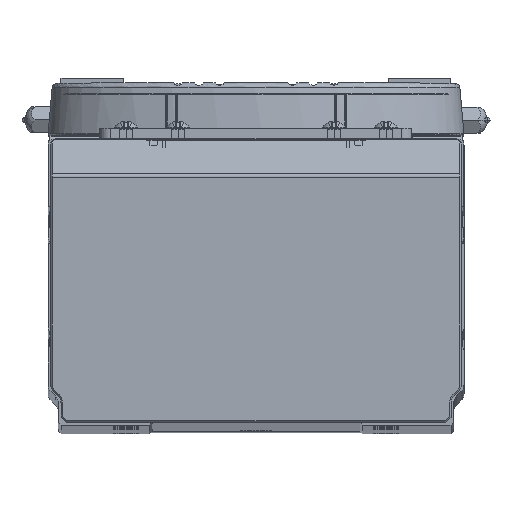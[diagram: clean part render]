
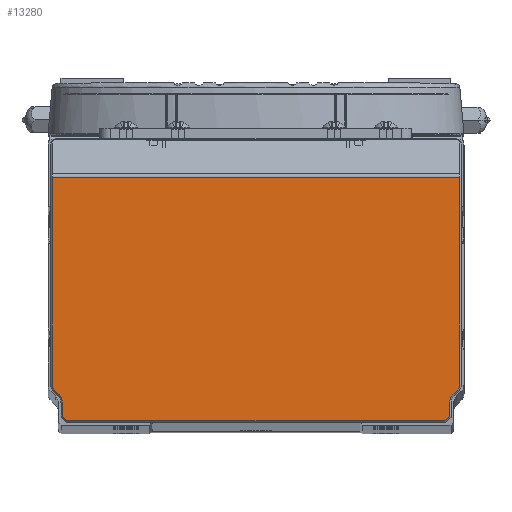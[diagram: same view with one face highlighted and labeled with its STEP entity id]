
A CAD part, top view. The second image highlights one B-rep face of the part: STEP entity #13280.
In plain terms, the highlighted planar face has unit normal (0, 0, 1).
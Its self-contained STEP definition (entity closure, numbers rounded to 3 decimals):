
#484 = CARTESIAN_POINT ( 'NONE',  ( 37.874, -16.202, 1090.404 ) ) ;
#2097 = ORIENTED_EDGE ( 'NONE', *, *, #111911, .T. ) ;
#2643 = EDGE_CURVE ( 'NONE', #99245, #128904, #76354, .T. ) ;
#2782 = CARTESIAN_POINT ( 'NONE',  ( -37.2, -20.376, 1090.404 ) ) ;
#3560 = EDGE_CURVE ( 'NONE', #47628, #75173, #10656, .T. ) ;
#7266 = ORIENTED_EDGE ( 'NONE', *, *, #36242, .T. ) ;
#7540 = DIRECTION ( 'NONE',  ( -1., 0., 0. ) ) ;
#7818 = DIRECTION ( 'NONE',  ( 0., 0., -1. ) ) ;
#8608 = DIRECTION ( 'NONE',  ( 0., -1., 0. ) ) ;
#9958 = VECTOR ( 'NONE', #91918, 1000. ) ;
#10237 = LINE ( 'NONE', #51178, #9958 ) ;
#10656 = LINE ( 'NONE', #51593, #35547 ) ;
#10748 = CARTESIAN_POINT ( 'NONE',  ( -36.376, -21.2, 1090.404 ) ) ;
#11081 = LINE ( 'NONE', #82728, #107239 ) ;
#12083 = ORIENTED_EDGE ( 'NONE', *, *, #102125, .T. ) ;
#13280 = ADVANCED_FACE ( 'NONE', ( #129088 ), #37431, .F. ) ;
#14920 = DIRECTION ( 'NONE',  ( 1., 0., 0. ) ) ;
#15445 = CARTESIAN_POINT ( 'NONE',  ( 37.288, -20.288, 1090.404 ) ) ;
#15608 = EDGE_CURVE ( 'NONE', #112318, #111291, #59565, .T. ) ;
#15751 = VERTEX_POINT ( 'NONE', #113684 ) ;
#16654 = VECTOR ( 'NONE', #127758, 1000. ) ;
#19326 = AXIS2_PLACEMENT_3D ( 'NONE', #99549, #7818, #48802 ) ;
#23388 = EDGE_CURVE ( 'NONE', #111291, #118069, #32990, .T. ) ;
#24994 = ORIENTED_EDGE ( 'NONE', *, *, #77900, .T. ) ;
#25704 = CARTESIAN_POINT ( 'NONE',  ( -39.5, 25.586, 1090.404 ) ) ;
#25815 = VERTEX_POINT ( 'NONE', #46710 ) ;
#27316 = DIRECTION ( 'NONE',  ( -1., 0., 0. ) ) ;
#27369 = DIRECTION ( 'NONE',  ( -1., 0., 0. ) ) ;
#31164 = DIRECTION ( 'NONE',  ( 0., -1., 0. ) ) ;
#31859 = VECTOR ( 'NONE', #114584, 1000. ) ;
#32990 = LINE ( 'NONE', #73771, #31859 ) ;
#35476 = CARTESIAN_POINT ( 'NONE',  ( 38.702, -15.374, 1090.404 ) ) ;
#35547 = VECTOR ( 'NONE', #92345, 1000. ) ;
#36242 = EDGE_CURVE ( 'NONE', #44996, #47628, #36483, .T. ) ;
#36483 = CIRCLE ( 'NONE', #111232, 2.3 ) ;
#36972 = ORIENTED_EDGE ( 'NONE', *, *, #23388, .T. ) ;
#37431 = PLANE ( 'NONE',  #44992 ) ;
#39678 = EDGE_LOOP ( 'NONE', ( #47270, #2097, #24994, #58564, #64291, #74153, #12083, #106183, #36972, #58524, #96040, #60231, #7266, #70381 ) ) ;
#39828 = AXIS2_PLACEMENT_3D ( 'NONE', #78160, #118972, #27316 ) ;
#41321 = CARTESIAN_POINT ( 'NONE',  ( 37.5, -14.172, 1090.404 ) ) ;
#42532 = VECTOR ( 'NONE', #56312, 1000. ) ;
#44992 = AXIS2_PLACEMENT_3D ( 'NONE', #78211, #119022, #27369 ) ;
#44996 = VERTEX_POINT ( 'NONE', #48848 ) ;
#45481 = VECTOR ( 'NONE', #8608, 1000. ) ;
#46209 = LINE ( 'NONE', #86941, #16654 ) ;
#46631 = CARTESIAN_POINT ( 'NONE',  ( -38.702, -15.374, 1090.404 ) ) ;
#46710 = CARTESIAN_POINT ( 'NONE',  ( -37.874, -16.202, 1090.404 ) ) ;
#47129 = CARTESIAN_POINT ( 'NONE',  ( 37.2, -20.376, 1090.404 ) ) ;
#47270 = ORIENTED_EDGE ( 'NONE', *, *, #48099, .T. ) ;
#47628 = VERTEX_POINT ( 'NONE', #484 ) ;
#48099 = EDGE_CURVE ( 'NONE', #75173, #93336, #99506, .T. ) ;
#48802 = DIRECTION ( 'NONE',  ( -1., 0., 0. ) ) ;
#48848 = CARTESIAN_POINT ( 'NONE',  ( 37.2, -17.828, 1090.404 ) ) ;
#49186 = EDGE_CURVE ( 'NONE', #69198, #25815, #10237, .T. ) ;
#51178 = CARTESIAN_POINT ( 'NONE',  ( -31.538, -22.538, 1090.404 ) ) ;
#51179 = CARTESIAN_POINT ( 'NONE',  ( -37.2, -17.828, 1090.404 ) ) ;
#51593 = CARTESIAN_POINT ( 'NONE',  ( 31.538, -22.538, 1090.404 ) ) ;
#53317 = CARTESIAN_POINT ( 'NONE',  ( 36.376, -21.2, 1090.404 ) ) ;
#55056 = VECTOR ( 'NONE', #31164, 1000. ) ;
#56312 = DIRECTION ( 'NONE',  ( 0.707, 0.707, 0. ) ) ;
#58524 = ORIENTED_EDGE ( 'NONE', *, *, #62254, .T. ) ;
#58533 = CARTESIAN_POINT ( 'NONE',  ( 39.5, -17.828, 1090.404 ) ) ;
#58564 = ORIENTED_EDGE ( 'NONE', *, *, #95687, .T. ) ;
#59565 = LINE ( 'NONE', #100323, #45481 ) ;
#60231 = ORIENTED_EDGE ( 'NONE', *, *, #94915, .T. ) ;
#62254 = EDGE_CURVE ( 'NONE', #118069, #99245, #65818, .T. ) ;
#64291 = ORIENTED_EDGE ( 'NONE', *, *, #93097, .T. ) ;
#64504 = VECTOR ( 'NONE', #66541, 1000. ) ;
#65818 = LINE ( 'NONE', #106618, #97216 ) ;
#66541 = DIRECTION ( 'NONE',  ( -1., 0., 0. ) ) ;
#69198 = VERTEX_POINT ( 'NONE', #46631 ) ;
#70381 = ORIENTED_EDGE ( 'NONE', *, *, #3560, .T. ) ;
#73771 = CARTESIAN_POINT ( 'NONE',  ( -36.288, -21.288, 1090.404 ) ) ;
#73963 = VERTEX_POINT ( 'NONE', #92674 ) ;
#74153 = ORIENTED_EDGE ( 'NONE', *, *, #49186, .T. ) ;
#75173 = VERTEX_POINT ( 'NONE', #35476 ) ;
#76354 = LINE ( 'NONE', #15445, #42532 ) ;
#77024 = CIRCLE ( 'NONE', #19326, 2.3 ) ;
#77900 = EDGE_CURVE ( 'NONE', #15751, #124410, #117353, .T. ) ;
#78160 = CARTESIAN_POINT ( 'NONE',  ( -37.5, -14.172, 1090.404 ) ) ;
#78211 = CARTESIAN_POINT ( 'NONE',  ( 0., 9., 1090.404 ) ) ;
#82000 = LINE ( 'NONE', #122820, #55056 ) ;
#82071 = DIRECTION ( 'NONE',  ( 0., 0., 1. ) ) ;
#82728 = CARTESIAN_POINT ( 'NONE',  ( 39.2, 9., 1090.404 ) ) ;
#83182 = CARTESIAN_POINT ( 'NONE',  ( -39.2, 25.586, 1090.404 ) ) ;
#83758 = CARTESIAN_POINT ( 'NONE',  ( 39.2, -14.172, 1090.404 ) ) ;
#86941 = CARTESIAN_POINT ( 'NONE',  ( 37.2, 9., 1090.404 ) ) ;
#91918 = DIRECTION ( 'NONE',  ( 0.707, -0.707, 0. ) ) ;
#92345 = DIRECTION ( 'NONE',  ( 0.707, 0.707, 0. ) ) ;
#92674 = CARTESIAN_POINT ( 'NONE',  ( -39.2, -14.172, 1090.404 ) ) ;
#93097 = EDGE_CURVE ( 'NONE', #73963, #69198, #97468, .T. ) ;
#93336 = VERTEX_POINT ( 'NONE', #83758 ) ;
#94915 = EDGE_CURVE ( 'NONE', #128904, #44996, #46209, .T. ) ;
#95687 = EDGE_CURVE ( 'NONE', #124410, #73963, #82000, .T. ) ;
#96040 = ORIENTED_EDGE ( 'NONE', *, *, #2643, .T. ) ;
#97216 = VECTOR ( 'NONE', #14920, 1000. ) ;
#97468 = CIRCLE ( 'NONE', #39828, 1.7 ) ;
#99245 = VERTEX_POINT ( 'NONE', #53317 ) ;
#99268 = DIRECTION ( 'NONE',  ( 0., 0., -1. ) ) ;
#99506 = CIRCLE ( 'NONE', #116614, 1.7 ) ;
#99549 = CARTESIAN_POINT ( 'NONE',  ( -39.5, -17.828, 1090.404 ) ) ;
#100323 = CARTESIAN_POINT ( 'NONE',  ( -37.2, 9., 1090.404 ) ) ;
#102125 = EDGE_CURVE ( 'NONE', #25815, #112318, #77024, .T. ) ;
#106183 = ORIENTED_EDGE ( 'NONE', *, *, #15608, .T. ) ;
#106618 = CARTESIAN_POINT ( 'NONE',  ( 0., -21.2, 1090.404 ) ) ;
#107239 = VECTOR ( 'NONE', #123534, 1000. ) ;
#111232 = AXIS2_PLACEMENT_3D ( 'NONE', #58533, #99268, #7540 ) ;
#111291 = VERTEX_POINT ( 'NONE', #2782 ) ;
#111911 = EDGE_CURVE ( 'NONE', #93336, #15751, #11081, .T. ) ;
#112318 = VERTEX_POINT ( 'NONE', #51179 ) ;
#113684 = CARTESIAN_POINT ( 'NONE',  ( 39.2, 25.586, 1090.404 ) ) ;
#114584 = DIRECTION ( 'NONE',  ( 0.707, -0.707, 0. ) ) ;
#116614 = AXIS2_PLACEMENT_3D ( 'NONE', #41321, #82071, #122890 ) ;
#117353 = LINE ( 'NONE', #25704, #64504 ) ;
#118069 = VERTEX_POINT ( 'NONE', #10748 ) ;
#118972 = DIRECTION ( 'NONE',  ( 0., 0., 1. ) ) ;
#119022 = DIRECTION ( 'NONE',  ( 0., 0., -1. ) ) ;
#122820 = CARTESIAN_POINT ( 'NONE',  ( -39.2, 9., 1090.404 ) ) ;
#122890 = DIRECTION ( 'NONE',  ( -1., 0., 0. ) ) ;
#123534 = DIRECTION ( 'NONE',  ( 0., 1., 0. ) ) ;
#124410 = VERTEX_POINT ( 'NONE', #83182 ) ;
#127758 = DIRECTION ( 'NONE',  ( 0., 1., 0. ) ) ;
#128904 = VERTEX_POINT ( 'NONE', #47129 ) ;
#129088 = FACE_OUTER_BOUND ( 'NONE', #39678, .T. ) ;
